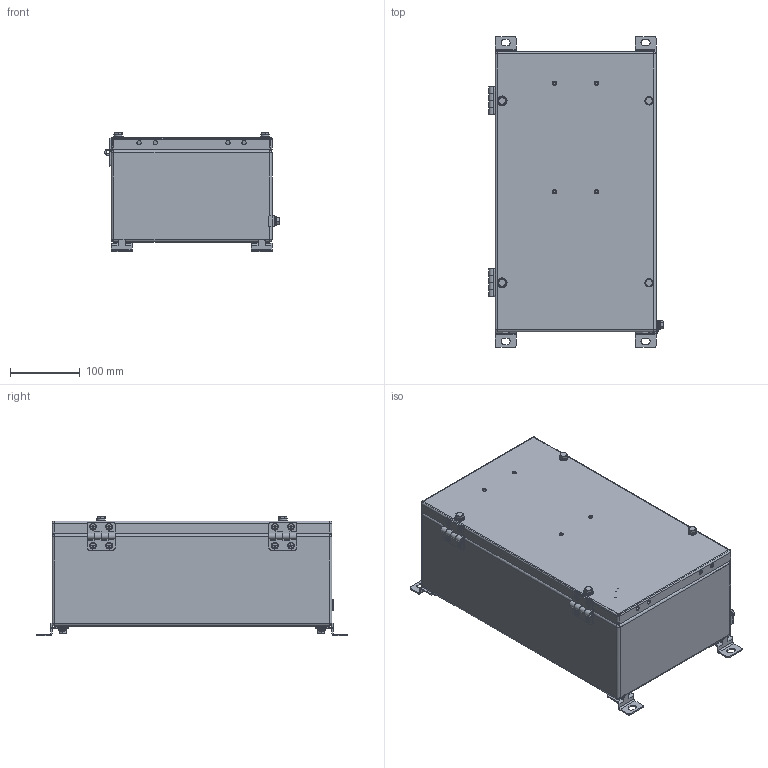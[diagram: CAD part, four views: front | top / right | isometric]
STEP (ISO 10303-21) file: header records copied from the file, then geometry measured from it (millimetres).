
FILE_DESCRIPTION((''),'2;1');
FILE_NAME('\\192.168.5.25\cortem_klient\INVENTOR БАЗА МОДЕЛЕЙ\Актуальная база моделей для отдела продаж\КСРВ-Н\КСРВ-Н402315_М5.stp','2019-04-09T14:15:04',('A.S.Kozlov'),(''),'Autodesk Inventor 2012','Autodesk Inventor 2012','');
FILE_SCHEMA(('CONFIG_CONTROL_DESIGN'));
Length unit declared in the file: millimetre
Products named in the file (1): КСРВ-(параметрическая модель)_Внешний контур_1
Bounding box: 249.19 x 444 x 171.2 mm (x, y, z)
Surface area: 560148.5 mm2 (no closed solid volume)
Topology: 0 solids, 79 shells, 331 faces, 1309 edges, 981 vertices
Faces by surface type: plane 182, cylinder 135, sphere 12, cone 2
Full cylindrical faces by diameter (mm): 5.9 x4, 6.1 x4, 9 x1, 10 x2, 12 x5, 12.7 x4, 14 x2
Entity records: 14165 total; most frequent: CARTESIAN_POINT 2741, DIRECTION 2344, ORIENTED_EDGE 1794, EDGE_CURVE 1271, VERTEX_POINT 970, AXIS2_PLACEMENT_3D 825, VECTOR 694, LINE 694
